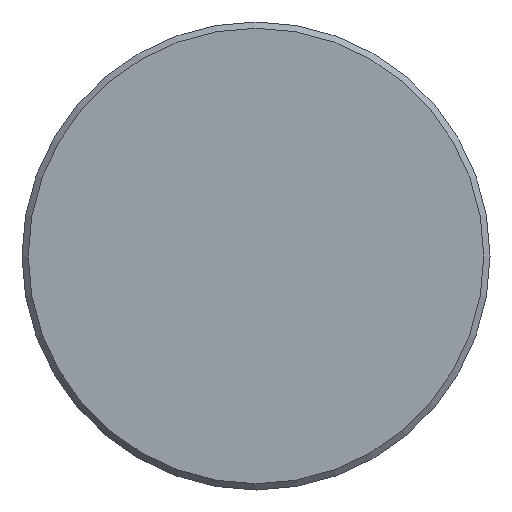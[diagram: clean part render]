
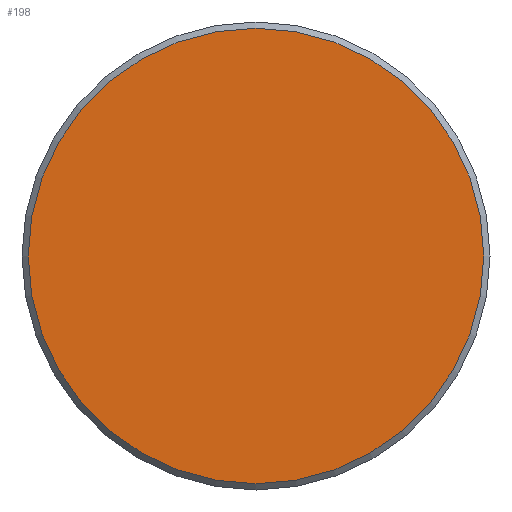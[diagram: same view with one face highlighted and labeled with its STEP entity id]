
A CAD part, front view. The second image highlights one B-rep face of the part: STEP entity #198.
In plain terms, the highlighted planar face has unit normal (0, -1, 0).
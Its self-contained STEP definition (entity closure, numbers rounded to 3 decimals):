
#198 = ADVANCED_FACE( '', ( #387 ), #388, .F. );
#387 = FACE_OUTER_BOUND( '', #583, .T. );
#388 = PLANE( '', #584 );
#583 = EDGE_LOOP( '', ( #894 ) );
#584 = AXIS2_PLACEMENT_3D( '', #895, #896, #897 );
#894 = ORIENTED_EDGE( '', *, *, #1114, .T. );
#895 = CARTESIAN_POINT( '', ( 29.2, 0., 0. ) );
#896 = DIRECTION( '', ( 0., 1., 0. ) );
#897 = DIRECTION( '', ( 0., 0., 1. ) );
#1114 = EDGE_CURVE( '', #1287, #1287, #1288, .T. );
#1287 = VERTEX_POINT( '', #1540 );
#1288 = CIRCLE( '', #1541, 29.2 );
#1540 = CARTESIAN_POINT( '', ( 0., 0., -29.2 ) );
#1541 = AXIS2_PLACEMENT_3D( '', #1997, #1998, #1999 );
#1997 = CARTESIAN_POINT( '', ( 0., 0., 0. ) );
#1998 = DIRECTION( '', ( 0., -1., 0. ) );
#1999 = DIRECTION( '', ( 0., 0., -1. ) );
